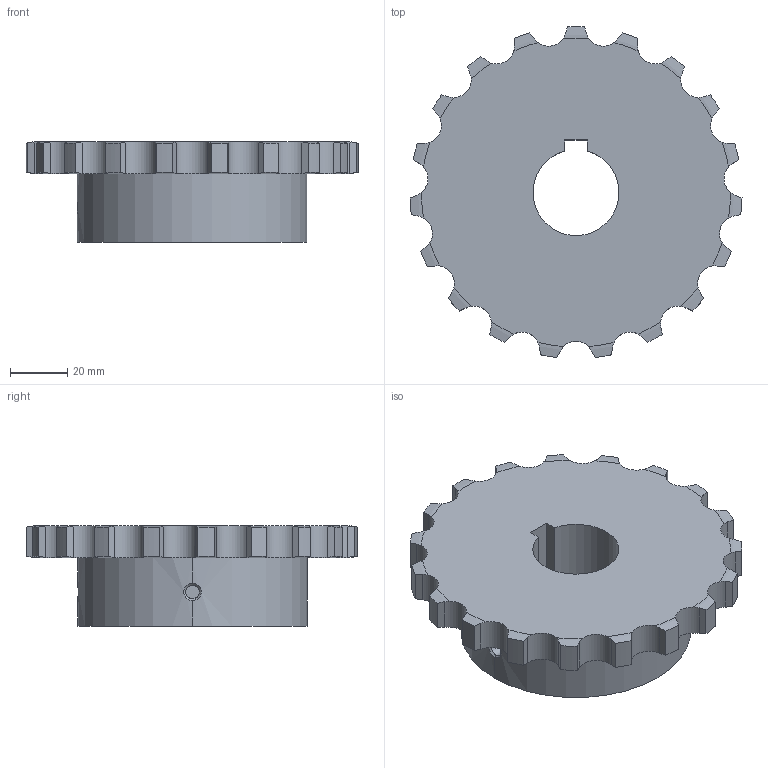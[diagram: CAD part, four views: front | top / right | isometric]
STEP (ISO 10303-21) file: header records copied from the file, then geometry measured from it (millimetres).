
FILE_DESCRIPTION((''),'2;1');
FILE_NAME('510-401-3019_PRT','2021-02-13T',('Brieden'),('Brieden'),'PRO/ENGINEER BY PARAMETRIC TECHNOLOGY CORPORATION, 2010160','PRO/ENGINEER BY PARAMETRIC TECHNOLOGY CORPORATION, 2010160','');
FILE_SCHEMA(('AUTOMOTIVE_DESIGN { 1 0 10303 214 1 1 1 1 }'));
Length unit declared in the file: millimetre
Products named in the file (1): 510-401-3019_PRT
Bounding box: 115.69 x 115.36 x 35 mm (x, y, z)
Volume: 198354.3 mm3; surface area: 32387.2 mm2
Topology: 1 solids, 1 shells, 135 faces, 387 edges, 256 vertices
Faces by surface type: cylinder 83, torus 38, plane 8, bspline 6
Entity records: 6547 total; most frequent: CARTESIAN_POINT 2002, ORIENTED_EDGE 774, DIRECTION 605, PRESENTATION_STYLE_ASSIGNMENT 388, STYLED_ITEM 388, CURVE_STYLE 387, EDGE_CURVE 387, VERTEX_POINT 256
